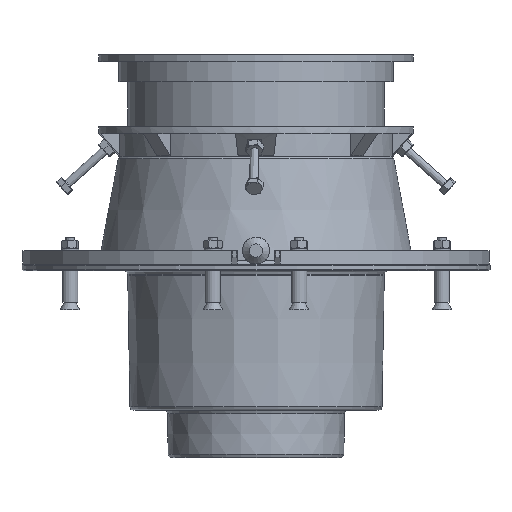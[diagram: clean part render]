
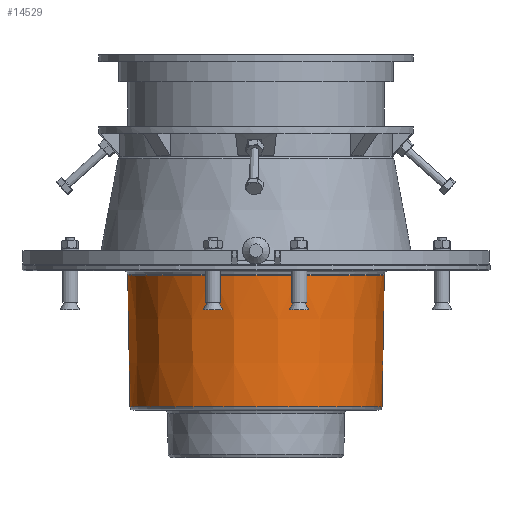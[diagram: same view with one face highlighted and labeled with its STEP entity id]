
A CAD part, left-side view. The second image highlights one B-rep face of the part: STEP entity #14529.
In plain terms, the highlighted conical face has half-angle 0.96 degrees and reference radius 89.717 mm.
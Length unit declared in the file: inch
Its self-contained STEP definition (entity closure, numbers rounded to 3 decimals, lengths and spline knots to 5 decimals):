
#560=CONICAL_SURFACE($,#15477,3.53218,0.96);
#3889=FACE_BOUND($,#5100,.T.);
#4257=FACE_OUTER_BOUND($,#5099,.T.);
#5099=EDGE_LOOP($,(#10358));
#5100=EDGE_LOOP($,(#10359));
#6267=CIRCLE($,#15476,3.56281);
#6268=CIRCLE($,#15478,3.50155);
#6749=VERTEX_POINT($,#20868);
#6750=VERTEX_POINT($,#20871);
#8216=EDGE_CURVE($,#6749,#6749,#6267,.T.);
#8217=EDGE_CURVE($,#6750,#6750,#6268,.T.);
#10358=ORIENTED_EDGE($,*,*,#8217,.F.);
#10359=ORIENTED_EDGE($,*,*,#8216,.T.);
#14529=ADVANCED_FACE($,(#4257,#3889),#560,.T.);
#15476=AXIS2_PLACEMENT_3D($,#20869,#16896,#16897);
#15477=AXIS2_PLACEMENT_3D($,#20870,#16898,#16899);
#15478=AXIS2_PLACEMENT_3D($,#20872,#16900,#16901);
#16896=DIRECTION('center_axis',(0.,-1.,0.));
#16897=DIRECTION('ref_axis',(1.,0.,0.));
#16898=DIRECTION('center_axis',(0.,1.,0.));
#16899=DIRECTION('ref_axis',(1.,0.,0.));
#16900=DIRECTION('center_axis',(0.,-1.,0.));
#16901=DIRECTION('ref_axis',(1.,0.,0.));
#20868=CARTESIAN_POINT('',(3.56281,2.4203,0.));
#20869=CARTESIAN_POINT('Origin',(0.,2.4203,0.));
#20870=CARTESIAN_POINT('Origin',(0.,0.59268,0.));
#20871=CARTESIAN_POINT('',(3.50155,-1.23493,0.));
#20872=CARTESIAN_POINT('Origin',(0.,-1.23493,0.));
